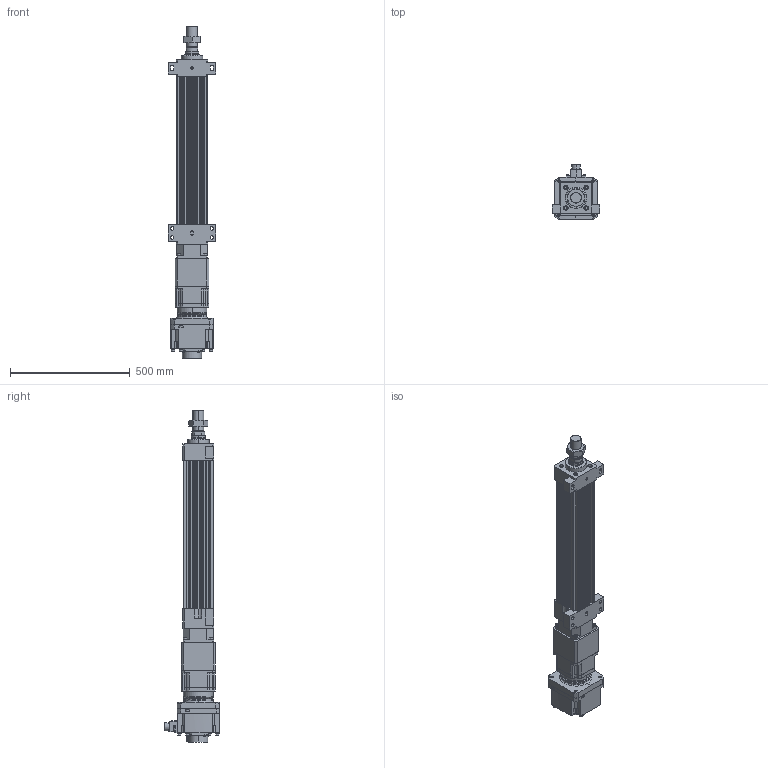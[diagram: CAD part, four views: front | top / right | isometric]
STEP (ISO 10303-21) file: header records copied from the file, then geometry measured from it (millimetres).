
FILE_DESCRIPTION (( 'STEP AP203' ), '1' );
FILE_NAME ('HES130FS(HS)-S400-W020G00-M-FFB.STEP', '2023-01-30T12:35:22', ( 'tms' ), ( '' ), 'SwSTEP 2.0', 'SolidWorks 2013', '' );
FILE_SCHEMA (( 'CONFIG_CONTROL_DESIGN' ));
Length unit declared in the file: millimetre
Products named in the file (9): AB1421; M45X1.5P; P1301500001; HES130-S400-G142-FFB; P0403500801; HG-SR202; HES130FS(HS)-S400-W020G00-M-FFB; AB142-003[HG-SR352]; HES130 ROD M ST400
Assembly tree (8 placements, depth 3):
  HES130FS(HS)-S400-W020G00-M-FFB
    HES130-S400-G142-FFB
    HES130 ROD M ST400
    M45X1.5P
    AB142-003[HG-SR352]
      AB1421
      P1301500001
      P0403500801
    HG-SR202
Bounding box: 200 x 228.85 x 1387.5 mm (x, y, z)
Volume: 12416718.5 mm3; surface area: 1590681.8 mm2
Topology: 4 solids, 22 shells, 1518 faces, 3922 edges, 2545 vertices
Faces by surface type: cylinder 676, plane 600, cone 160, bspline 76, torus 6
Entity records: 55270 total; most frequent: CARTESIAN_POINT 16778, DIRECTION 8032, ORIENTED_EDGE 7750, EDGE_CURVE 3897, AXIS2_PLACEMENT_3D 3016, VERTEX_POINT 2545, VECTOR 2000, LINE 2000
